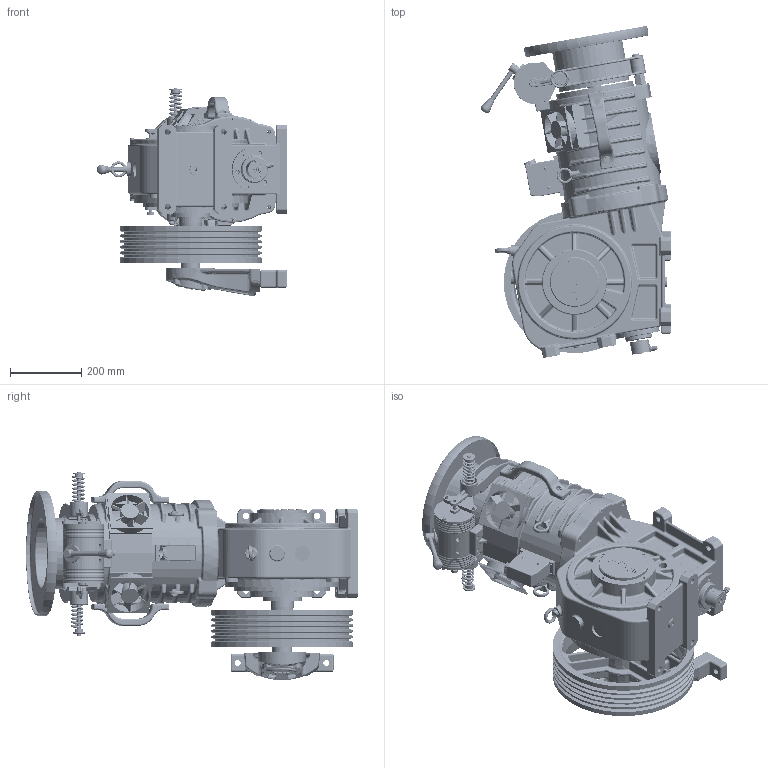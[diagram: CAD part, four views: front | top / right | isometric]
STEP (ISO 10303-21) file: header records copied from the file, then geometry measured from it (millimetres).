
FILE_DESCRIPTION (( 'STEP AP214' ), '1' );
FILE_NAME ('STL75120.STEP', '2026-01-21T09:13:48', ( '' ), ( '' ), 'SwSTEP 2.0', 'SolidWorks 2023', '' );
FILE_SCHEMA (( 'AUTOMOTIVE_DESIGN' ));
Length unit declared in the file: millimetre
Products named in the file (1): STL75120
Bounding box: 535.61 x 934.74 x 587.91 mm (x, y, z)
Volume: 55983479.2 mm3; surface area: 3865640.8 mm2
Topology: 38 solids, 63 shells, 6256 faces, 14924 edges, 8753 vertices
Faces by surface type: cylinder 2162, plane 1445, bspline 1368, torus 556, cone 380, sphere 345
Entity records: 252299 total; most frequent: CARTESIAN_POINT 118667, ORIENTED_EDGE 29316, DIRECTION 26540, EDGE_CURVE 14658, AXIS2_PLACEMENT_3D 10829, VERTEX_POINT 8715, EDGE_LOOP 6715, FACE_OUTER_BOUND 6256
